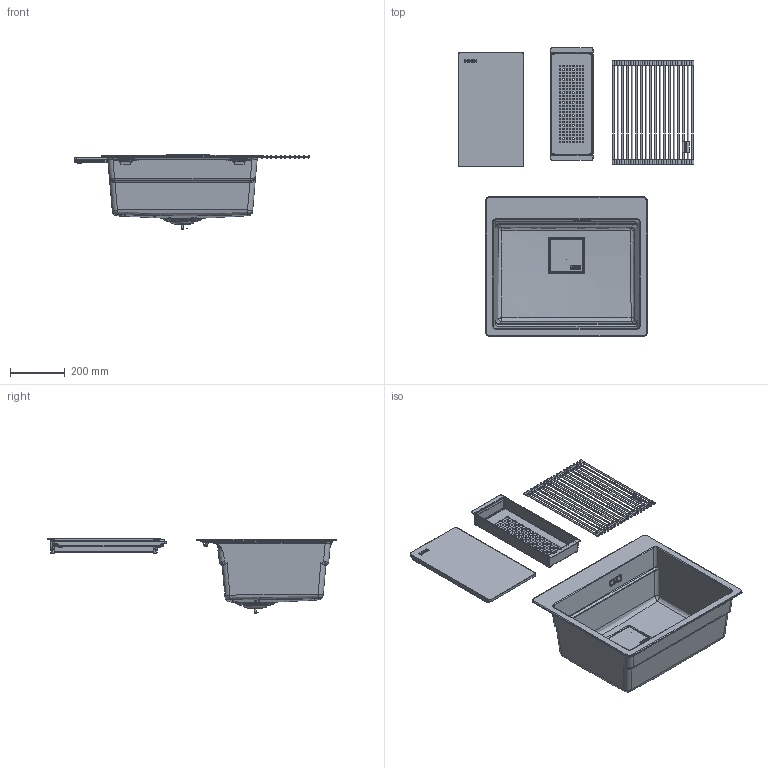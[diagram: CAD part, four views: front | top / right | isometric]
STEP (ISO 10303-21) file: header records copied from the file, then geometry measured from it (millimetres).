
FILE_DESCRIPTION(/* description */ (''),/* implementation_level */ '2;1');
FILE_NAME(/* name */ '3D001_Sinks_Kubus-2-Pro_KNG-PRO-610-53-FTL',/* time_stamp */ '2026-07-03T09:09:21+02:00',/* author */ (''),/* organization */ (''),/* preprocessor_version */ 'ST-DEVELOPER v19.2',/* originating_system */ 'Rhino 8.31',/* authorisation */ '');
FILE_SCHEMA (('CONFIG_CONTROL_DESIGN'));
Products named in the file (25): Document; 20284499_iam_000; 20284210_ipt_000; 20118468_IAM_000; 20117565_IPT_00024; 20117567_IPT_00026; 20118466_IAM_000; 20117569_IPT_000; 20118465_IPT_000; Blocco 04; 20118464_IPT_000; 20117570_IPT_0002; 20116285_IPT_0004; 20117572_IPT_00020; 20202566_ipt_000; LOGO_SOLOBORDO_COPRISCARICO; tagliere; 20111975_IPT_000; strainer_bowl; 20116746_IPT_0004; 20116745_IPT_0002; 20287072_ipt_000; 20116789_IPT_0002; 20287079_ipt_000; OVERFLOW
Bounding box: 860.56 x 1054.67 x 273.72 mm (x, y, z)
Volume: 7315966.3 mm3; surface area: 2141931.5 mm2
Topology: 66 solids, 73 shells, 6665 faces, 18224 edges, 11726 vertices
Faces by surface type: plane 3103, cylinder 2140, bspline 1422
Full cylindrical faces by diameter (mm): 3.9 x4, 4 x8, 4.7 x1, 4.8 x18, 4.85 x1, 5 x13, 5.05 x4, 5.2 x1, 5.25 x1, 5.994 x1, 6 x57, 6.2 x1, 8 x1, 8.25 x1, 12.6 x2, 13.743 x2, 14.3 x1, 28 x5, 33 x2, 36.5 x1, 38 x3, 47 x1, 84 x1
Entity records: 245309 total; most frequent: CARTESIAN_POINT 116501, ORIENTED_EDGE 32067, EDGE_CURVE 16105, DIRECTION 14190, B_SPLINE_CURVE_WITH_KNOTS 10918, VERTEX_POINT 10451, AXIS2_PLACEMENT_3D 9425, EDGE_LOOP 6461
